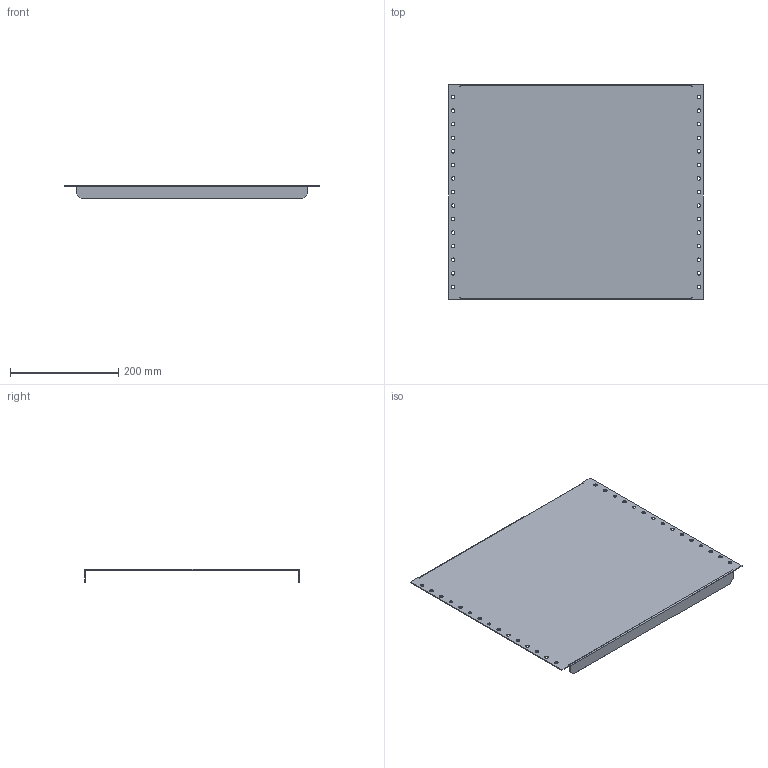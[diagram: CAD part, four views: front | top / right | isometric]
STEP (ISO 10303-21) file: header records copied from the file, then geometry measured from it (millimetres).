
FILE_DESCRIPTION (( 'STEP AP214' ), '1' );
FILE_NAME ('MSMPN4006.STEP', '2016-08-11T13:26:29', ( '' ), ( '' ), 'SwSTEP 2.0', 'SolidWorks 2014', '' );
FILE_SCHEMA (( 'AUTOMOTIVE_DESIGN' ));
Length unit declared in the file: millimetre
Products named in the file (1): MSMPN4006
Bounding box: 470 x 396 x 25 mm (x, y, z)
Volume: 306706 mm3; surface area: 412598.9 mm2
Topology: 1 solids, 1 shells, 72 faces, 224 edges, 154 vertices
Faces by surface type: plane 38, cylinder 34
Full cylindrical faces by diameter (mm): 6.5 x30
Entity records: 2262 total; most frequent: DIRECTION 378, CARTESIAN_POINT 361, ORIENTED_EDGE 328, EDGE_CURVE 164, EDGE_LOOP 162, AXIS2_PLACEMENT_3D 141, VERTEX_POINT 124, FACE_OUTER_BOUND 102
